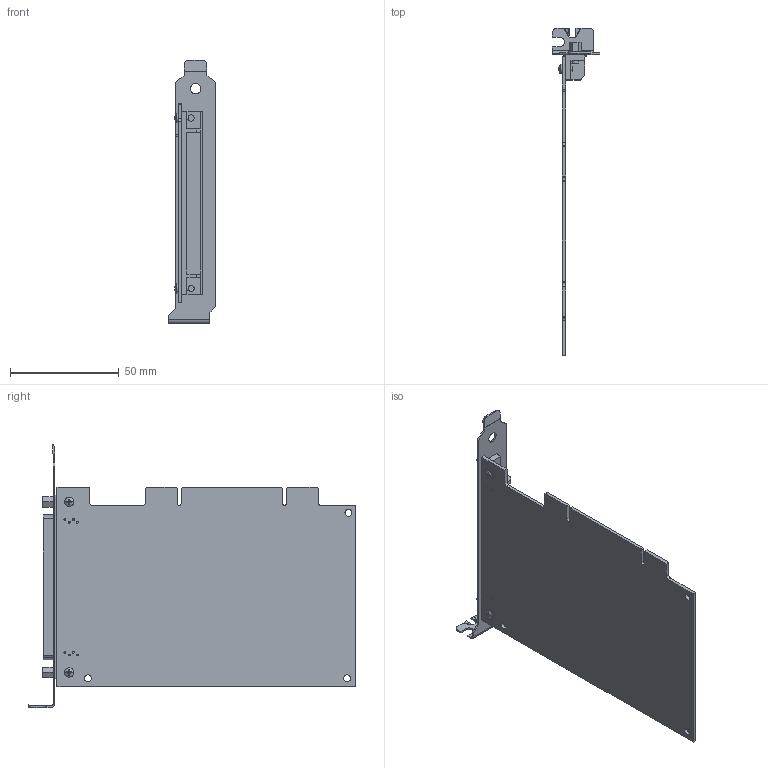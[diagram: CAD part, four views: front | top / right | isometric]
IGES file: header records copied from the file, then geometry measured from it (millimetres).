
Start section:  PTC IGES file: cu_pci-6511.igs
Global section: file name: cu_pci-6511.igs; native system: Pro/ENGINEER by Parametric Technology Corporation; preprocessor: 2010230; author: dkendric; organization: Unknown; date: 20110818.154243; units: inch
Bounding box: 21.59 x 150.43 x 120.78 mm (x, y, z)
Surface area: 31574 mm2 (no closed solid volume)
Topology: 0 solids, 0 shells, 281 faces, 1374 edges, 1330 vertices
Faces by surface type: bspline 197, revolution 84
